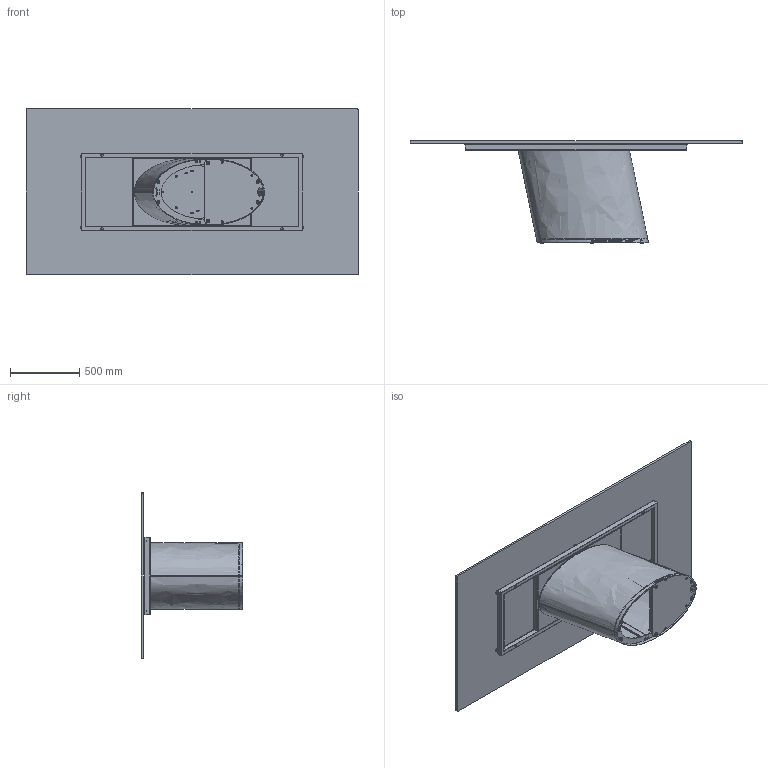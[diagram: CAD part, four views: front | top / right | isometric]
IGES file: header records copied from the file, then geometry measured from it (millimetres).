
Start section: SolidWorks IGES file using analytic representation for surfaces
Global section: file name: Y:\eforma\TECNICO\SOLIDWORKS\E-FORMA\1-TAVOLI\DORADO\02 parts\DO23G.IGS; native system: SolidWorks 2022; preprocessor: SolidWorks 2022; author: eforma.tech; date: 240806.151049; units: millimetre
Bounding box: 2400 x 737 x 1200 mm (x, y, z)
Volume: 55361035.5 mm3; surface area: 13124729.6 mm2
Topology: 49 solids, 49 shells, 1104 faces, 2676 edges, 1684 vertices
Faces by surface type: revolution 670, plane 408, bspline 26
